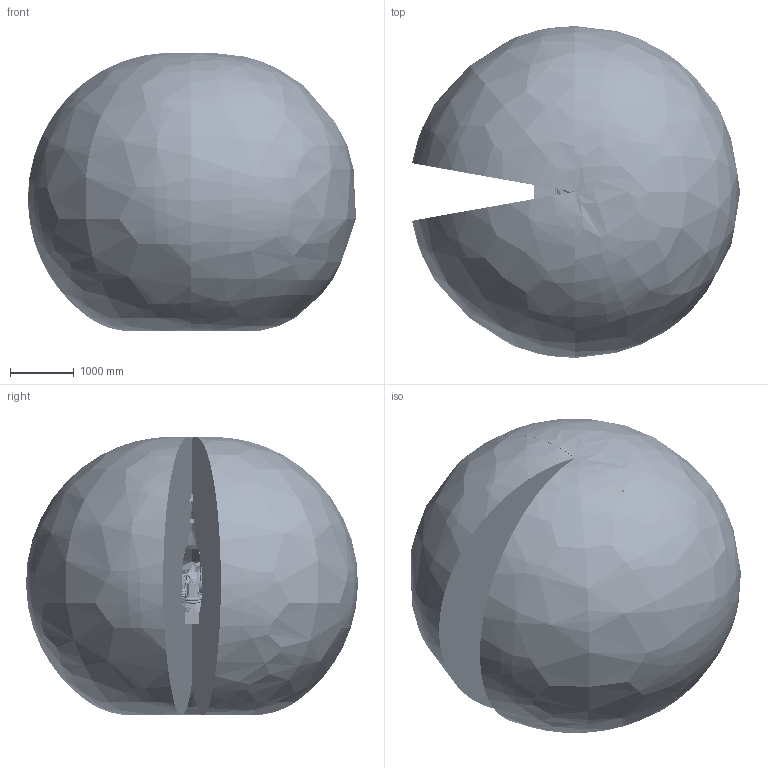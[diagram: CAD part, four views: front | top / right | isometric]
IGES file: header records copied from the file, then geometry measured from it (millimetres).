
Start section: SolidWorks IGES file using analytic representation for surfaces
Global section: file name: C:\Users\SEALDUN\OneDrive - ABB\Documents\R&D Robotics\Work Items\WI 632927 light weight hole removal\IGES\IRB5720-MH3_180kg-260_OC_03_IGES_J\IRB5720-MH3_180kg-260_OC_03_ASM.igs; native system: SolidWorks 2024; preprocessor: SolidWorks 2024; author: SEALDUN; date: 250708.132420; units: millimetre
Bounding box: 5138.29 x 5199.38 x 4357.08 mm (x, y, z)
Surface area: 112444565.4 mm2 (no closed solid volume)
Topology: 0 solids, 0 shells, 7514 faces, 117607 edges, 117415 vertices
Faces by surface type: bspline 4360, revolution 3154
